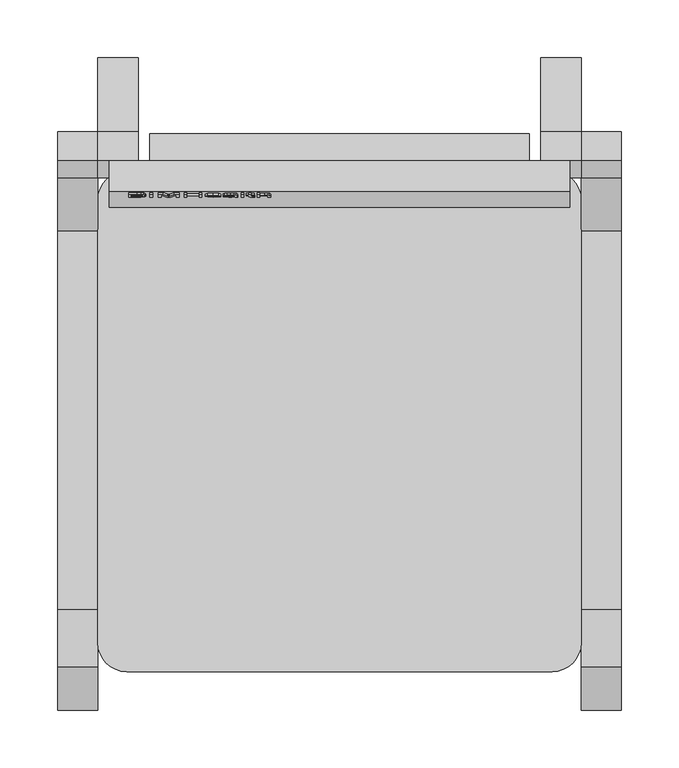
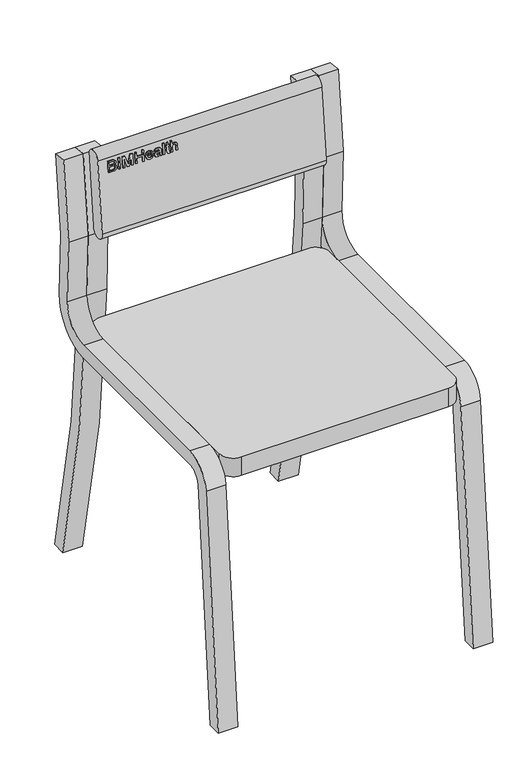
"""IFC4 building model written with IfcOpenShell, lengths in millimetres: proxy geometry, BIMHealth-Visitors_Chair-LOD2A-v1 : BIMHealth-Visitors_Chair-LOD2A-v1."""

from ifc_helpers import new_model, si_unit, point, frame, frame_2d, origin, place, context, project, spatial, polyline, circle_curve, trimmed, segment, composite_curve, outline, extrude, source, transform, mapped, element, save


def generic_models_43fc684f(model_context):
    return source(origin(), model_context, "Body", "SweptSolid", [
        extrude(outline(composite_curve([segment(polyline([(9.4740944, 791.6614232), (34.3371418, 789.0482116), (19.2232707, 645.2493336), (23.1777963, 532.006535)]), True, "CONTINUOUS"), segment(trimmed(circle_curve(frame_2d((2562.2174881, 620.6717548)), 2540.587349), [point((23.1777963, 532.006535))], [point((98.6122741, 0.0))], True, "CARTESIAN"), True, "CONTINUOUS"), segment(polyline([(98.6122741, 0.0), (72.839048, 0.0)]), True, "CONTINUOUS"), segment(trimmed(circle_curve(frame_2d((2562.2174881, 620.6717548)), 2565.587349), [point((72.839048, 0.0))], [point((-1.8069743, 531.1340476))], False, "CARTESIAN"), True, "CONTINUOUS"), segment(polyline([(-1.8069743, 531.1340476), (-5.8225103, 646.1239516), (9.4740944, 791.6614232)]), True, "CONTINUOUS")], self_intersect=False)), frame((15.0, 0.0, 0.0), z_axis=(1.0, 0.0, 0.0), x_axis=(0.0, 1.0, 0.0)), (0.0, 0.0, 1.0), 35.0),
        extrude(outline(composite_curve([segment(polyline([(9.4740944, 791.6614232), (34.3371418, 789.0482116), (19.2232707, 645.2493336), (23.1777963, 532.006535)]), True, "CONTINUOUS"), segment(trimmed(circle_curve(frame_2d((2562.2174881, 620.6717548)), 2540.587349), [point((23.1777963, 532.006535))], [point((98.6122741, 0.0))], True, "CARTESIAN"), True, "CONTINUOUS"), segment(polyline([(98.6122741, 0.0), (72.839048, 0.0)]), True, "CONTINUOUS"), segment(trimmed(circle_curve(frame_2d((2562.2174881, 620.6717548)), 2565.587349), [point((72.839048, 0.0))], [point((-1.8069743, 531.1340476))], False, "CARTESIAN"), True, "CONTINUOUS"), segment(polyline([(-1.8069743, 531.1340476), (-5.8225103, 646.1239516), (9.4740944, 791.6614232)]), True, "CONTINUOUS")], self_intersect=False)), frame((400.0, 0.0, 0.0), z_axis=(1.0, 0.0, 0.0), x_axis=(0.0, 1.0, 0.0)), (0.0, 0.0, 1.0), 35.0),
        extrude(outline(composite_curve([segment(polyline([(9.4740944, 791.6614232), (34.3371418, 789.0482116), (19.2232707, 645.2493336), (23.1777963, 532.006535)]), True, "CONTINUOUS"), segment(trimmed(circle_curve(frame_2d((-51.7765157, 529.3890727)), 75.0), [point((23.1777963, 532.006535))], [point((-51.7765157, 454.3890727))], False, "CARTESIAN"), True, "CONTINUOUS"), segment(polyline([(-51.7765157, 454.3890727), (-380.8720183, 454.3890727)]), True, "CONTINUOUS"), segment(trimmed(circle_curve(frame_2d((-380.8720183, 429.3890727)), 25.0), [point((-380.8720183, 454.3890727))], [point((-405.7768857, 431.5679663))], True, "CARTESIAN"), True, "CONTINUOUS"), segment(polyline([(-405.7768857, 431.5679663), (-443.5341903, 0.0), (-468.6296862, 0.0), (-430.6817532, 433.7468599)]), True, "CONTINUOUS"), segment(trimmed(circle_curve(frame_2d((-380.8720183, 429.3890727)), 50.0), [point((-430.6817532, 433.7468599))], [point((-380.8720183, 479.3890727))], False, "CARTESIAN"), True, "CONTINUOUS"), segment(polyline([(-380.8720183, 479.3890727), (-51.7765157, 479.3890727)]), True, "CONTINUOUS"), segment(trimmed(circle_curve(frame_2d((-51.7765157, 529.3890727)), 50.0), [point((-51.7765157, 479.3890727))], [point((-1.8069743, 531.1340476))], True, "CARTESIAN"), True, "CONTINUOUS"), segment(polyline([(-1.8069743, 531.1340476), (-5.8225103, 646.1239516), (9.4740944, 791.6614232)]), True, "CONTINUOUS")], self_intersect=False)), frame((-20.0, 0.0, 0.0), z_axis=(1.0, 0.0, 0.0), x_axis=(0.0, 1.0, 0.0)), (0.0, 0.0, 1.0), 35.0),
        extrude(outline(composite_curve([segment(polyline([(9.4740944, 791.6614232), (34.3371418, 789.0482116), (19.2232707, 645.2493336), (23.1777963, 532.006535)]), True, "CONTINUOUS"), segment(trimmed(circle_curve(frame_2d((-51.7765157, 529.3890727)), 75.0), [point((23.1777963, 532.006535))], [point((-51.7765157, 454.3890727))], False, "CARTESIAN"), True, "CONTINUOUS"), segment(polyline([(-51.7765157, 454.3890727), (-380.8720183, 454.3890727)]), True, "CONTINUOUS"), segment(trimmed(circle_curve(frame_2d((-380.8720183, 429.3890727)), 25.0), [point((-380.8720183, 454.3890727))], [point((-405.7768857, 431.5679663))], True, "CARTESIAN"), True, "CONTINUOUS"), segment(polyline([(-405.7768857, 431.5679663), (-443.5341903, 0.0), (-468.6296862, 0.0), (-430.6817532, 433.7468599)]), True, "CONTINUOUS"), segment(trimmed(circle_curve(frame_2d((-380.8720183, 429.3890727)), 50.0), [point((-430.6817532, 433.7468599))], [point((-380.8720183, 479.3890727))], False, "CARTESIAN"), True, "CONTINUOUS"), segment(polyline([(-380.8720183, 479.3890727), (-51.7765157, 479.3890727)]), True, "CONTINUOUS"), segment(trimmed(circle_curve(frame_2d((-51.7765157, 529.3890727)), 50.0), [point((-51.7765157, 479.3890727))], [point((-1.8069743, 531.1340476))], True, "CARTESIAN"), True, "CONTINUOUS"), segment(polyline([(-1.8069743, 531.1340476), (-5.8225103, 646.1239516), (9.4740944, 791.6614232)]), True, "CONTINUOUS")], self_intersect=False)), frame((435.0, 0.0, 0.0), z_axis=(1.0, 0.0, 0.0), x_axis=(0.0, 1.0, 0.0)), (0.0, 0.0, 1.0), 35.0),
        extrude(outline(polyline([(7.4567308, 0.0), (7.4567308, -19.6923076), (-0.0576923, -19.6923076), (-3.7379807, -19.1129807), (-5.9110576, -17.3317307), (-6.6971153, -14.8124999), (-6.0360576, -12.5120192), (-4.0384615, -10.7692307), (-6.4639423, -8.9326922), (-7.3125, -5.8701922), (-6.733173, -3.2235577), (-5.2980769, -1.3389423), (-3.15625, -0.3389423), (0.0, 0.0), (7.4567308, 0.0)]), holes=[polyline([(4.9951924, -11.6923077), (0.5, -11.6923077), (-2.125, -11.9038461), (-3.7043269, -12.8149038), (-4.2355769, -14.4182692), (-3.7403846, -16.0240385), (-2.3221153, -16.9735576), (0.8413462, -17.2307692), (4.9951924, -17.2307692), (4.9951924, -11.6923077)]), polyline([(4.9951924, -2.4615384), (-0.0528846, -2.4615384), (-1.8798076, -2.5576923), (-3.4254807, -3.09375), (-4.8509615, -5.8461538), (-4.3798076, -7.7596154), (-2.8533653, -8.9014422), (0.1875, -9.2307692), (4.9951924, -9.2307692), (4.9951924, -2.4615384)])]), frame((49.1725022, -20.6507996, 765.2940874), z_axis=(0.0, -0.9945218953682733, 0.1045284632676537), x_axis=(-1.0, 0.0, 0.0)), (0.0, 0.0, 1.0), 2.0),
        extrude(outline(polyline([(0.0, -2.4615385), (0.0, 0.0), (1.9999999, 0.0), (1.9999999, -2.4615385), (0.0, -2.4615385)])), frame((60.1773098, -22.6398433, 765.5031443), z_axis=(0.0, 0.10452846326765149, 0.9945218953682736), x_axis=(0.0, 0.9945218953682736, -0.10452846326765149)), (0.0, 0.0, 1.0), 19.6923077),
        extrude(outline(polyline([(2.4615385, 0.0), (2.4615385, -19.6923076), (-1.7596154, -19.6923076), (-5.7980769, -5.8125), (-6.6153846, -2.9134615), (-7.4951923, -6.0528845), (-11.4567308, -19.6923076), (-15.6923077, -19.6923076), (-15.6923077, 0.0), (-13.2307692, 0.0), (-13.2307692, -17.2307692), (-8.2836538, 0.0), (-4.9519231, 0.0), (0.0, -17.2307692), (0.0, 0.0), (2.4615385, 0.0)])), frame((70.0234637, -20.6507996, 765.2940874), z_axis=(0.0, -0.9945218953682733, 0.1045284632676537), x_axis=(-1.0, 0.0, 0.0)), (0.0, 0.0, 1.0), 2.0),
        extrude(outline(polyline([(2.4615385, 0.0), (2.4615385, -19.6923076), (0.0, -19.6923076), (0.0, -11.6923077), (-10.4615384, -11.6923077), (-10.4615384, -19.6923076), (-12.9230769, -19.6923076), (-12.9230769, 0.0), (-10.4615384, 0.0), (-10.4615384, -9.2307692), (0.0, -9.2307692), (0.0, 0.0), (2.4615385, 0.0)])), frame((92.4850022, -20.6507996, 765.2940874), z_axis=(0.0, -0.9945218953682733, 0.1045284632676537), x_axis=(-1.0, 0.0, 0.0)), (0.0, 0.0, 1.0), 2.0),
        extrude(outline(polyline([(2.2814058, 0.0), (3.7386703, -1.9482945), (-0.1146776, -2.5362265), (-3.8503389, -0.3006806), (-6.0034149, 4.7275284), (-3.3875047, 9.8883577), (1.9992252, 12.4452574), (6.8870125, 10.2843244), (8.7913973, 5.4335929), (6.037796, 0.1696204), (-2.1420986, 7.6681357), (-3.4549294, 4.4273493), (-2.0480384, 1.3765778), (0.0, 0.0), (2.2814058, 0.0)]), holes=[polyline([(-0.3732318, 9.3799423), (5.6180913, 3.1889085), (6.5357356, 5.4484709), (5.1114589, 8.5794275), (2.3418651, 10.1174345), (-0.3732318, 9.3799423)])]), frame((117.9465406, -20.3718895, 767.9477395), z_axis=(0.0, -0.9945218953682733, 0.10452846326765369), x_axis=(0.6954214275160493, 0.075114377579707, 0.7146655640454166)), (0.0, 0.0, 1.0), 2.0),
        extrude(outline(polyline([(1.946017, 0.0), (1.1181996, 2.7920783), (1.4914396, 5.4473274), (3.7301193, 8.4689749), (6.9570109, 8.7084262), (8.6552147, 7.6457185), (9.6046582, 6.0242909), (9.8258656, 4.1337659), (9.5035565, 1.9961878), (8.9562393, -2.3215375), (11.4100451, -2.4401229), (12.9455741, -0.0836179), (13.2838466, 2.4287205), (12.0653055, 4.0866358), (13.1356149, 6.3245554), (15.0793513, 4.5541359), (15.7376524, 2.0744845), (15.180453, -1.1630492), (13.8220419, -3.8547861), (12.2469844, -5.1060141), (10.4233537, -5.2937744), (8.3420276, -4.7266928), (5.436685, -3.7582453), (1.3401672, -2.5245009), (-0.7784068, -2.3352205), (0.0, 0.0), (1.946017, 0.0)]), holes=[polyline([(6.2880675, -1.4397485), (7.1561735, 2.4492449), (7.4473159, 4.5845424), (3.6609445, 4.171774), (3.4321354, 1.6229478), (4.2766765, -0.3511952), (6.2880675, -1.4397485)])]), frame((134.331156, -20.6507996, 765.2940874), z_axis=(0.0, -0.9945218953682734, 0.1045284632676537), x_axis=(-0.31622776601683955, 0.09916440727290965, 0.943486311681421)), (0.0, 0.0, 1.0), 2.0),
        extrude(outline(polyline([(0.0, -2.4615385), (0.0, 0.0), (1.9999999, 0.0), (1.9999999, -2.4615385), (0.0, -2.4615385)])), frame((139.5619252, -22.6398433, 765.5031443), z_axis=(0.0, 0.10452846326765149, 0.9945218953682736), x_axis=(0.0, 0.9945218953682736, -0.10452846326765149)), (0.0, 0.0, 1.0), 19.6923077),
        extrude(outline(polyline([(9.0385156, 0.0), (12.336755, 1.0995842), (12.3194027, -0.7566892), (11.6337058, -2.744332), (7.6236388, -3.5325485), (-0.3351862, -2.4386107), (-0.5865759, -4.2675687), (-3.0251865, -3.9323825), (-2.7737968, -2.1034245), (-6.2554851, -1.6248676), (-7.3539351, 1.0107959), (-2.4386106, 0.3351862), (-2.1034244, 2.7737968), (0.3351862, 2.4386106), (0.0, 0.0), (9.0385156, 0.0)])), frame((148.4850022, -19.396458, 777.2283501), z_axis=(0.0, -0.9945218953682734, 0.1045284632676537), x_axis=(0.13616939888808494, -0.10355484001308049, -0.9852584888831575)), (0.0, 0.0, 1.0), 2.0),
        extrude(outline(polyline([(2.4615384, 0.0), (2.4615384, -19.6923076), (0.0, -19.6923076), (0.0, -12.451923), (-4.2836539, -14.7692307), (-7.048077, -14.1370192), (-8.7259616, -12.3894231), (-9.2307693, -9.1538461), (-9.2307693, 0.0), (-6.7692308, 0.0), (-6.7692308, -8.8990384), (-5.985577, -11.4951923), (-3.7644231, -12.3076922), (-1.7475962, -11.7596153), (-0.4014423, -10.2740385), (0.0, -7.6826923), (0.0, 0.0), (2.4615384, 0.0)])), frame((155.8696175, -20.6507996, 765.2940874), z_axis=(0.0, -0.9945218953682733, 0.1045284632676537), x_axis=(-1.0, 0.0, 0.0)), (0.0, 0.0, 1.0), 2.0),
        extrude(outline(polyline([(0.0, -25.0), (0.0, 0.0), (330.0, 0.0), (330.0, -25.0), (0.0, -25.0)])), frame((60.0, 20.7548495, 659.8213328), z_axis=(0.0, 0.10452846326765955, 0.9945218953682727), x_axis=(1.0, 0.0, 0.0)), (0.0, 0.0, 1.0), 110.0),
        extrude(outline(composite_curve([segment(trimmed(circle_curve(frame_2d((-18.0878893, 659.5526071)), 13.6018648), [point((-4.560537, 658.1308251))], [point((-31.6152417, 660.9743891))], False, "CARTESIAN"), True, "CONTINUOUS"), segment(polyline([(-31.6152417, 660.9743891), (-18.0265414, 790.2622355)]), True, "CONTINUOUS"), segment(trimmed(circle_curve(frame_2d((-4.4991891, 788.8404535)), 13.6018648), [point((-18.0265414, 790.2622355))], [point((9.0281632, 787.4186715))], False, "CARTESIAN"), True, "CONTINUOUS"), segment(polyline([(9.0281632, 787.4186715), (-4.560537, 658.1308251)]), True, "CONTINUOUS")], self_intersect=False)), frame((25.0, 0.0, 0.0), z_axis=(1.0, 0.0, 0.0), x_axis=(0.0, 1.0, 0.0)), (0.0, 0.0, 1.0), 400.0),
        extrude(outline(composite_curve([segment(trimmed(circle_curve(frame_2d((410.0, -25.0)), 25.0), [point((410.0, 0.0))], [point((435.0, -25.0))], False, "CARTESIAN"), True, "CONTINUOUS"), segment(polyline([(435.0, -25.0), (435.0, -410.0)]), True, "CONTINUOUS"), segment(trimmed(circle_curve(frame_2d((410.0, -410.0)), 25.0), [point((435.0, -410.0))], [point((410.0, -435.0))], False, "CARTESIAN"), True, "CONTINUOUS"), segment(polyline([(410.0, -435.0), (40.0, -435.0)]), True, "CONTINUOUS"), segment(trimmed(circle_curve(frame_2d((40.0, -410.0)), 25.0), [point((40.0, -435.0))], [point((15.0, -410.0))], False, "CARTESIAN"), True, "CONTINUOUS"), segment(polyline([(15.0, -410.0), (15.0, -25.0)]), True, "CONTINUOUS"), segment(trimmed(circle_curve(frame_2d((40.0, -25.0)), 25.0), [point((15.0, -25.0))], [point((40.0, 0.0))], False, "CARTESIAN"), True, "CONTINUOUS"), segment(polyline([(40.0, 0.0), (410.0, 0.0)]), True, "CONTINUOUS")], self_intersect=False)), frame((0.0, 0.0, 445.0), z_axis=(0.0, 0.0, 1.0), x_axis=(1.0, 0.0, 0.0)), (0.0, 0.0, 1.0), 35.0),
    ])


if __name__ == "__main__":
    model = new_model("IFC4")
    model_context = context("Model", 3, world=origin())
    ifc_project = project(units=[si_unit("LENGTHUNIT", "METRE", prefix="MILLI")], contexts=[model_context])
    site = spatial("IfcSite", under=ifc_project)
    building = spatial("IfcBuilding", under=site)
    placement = place(None, origin())
    generic_models_shape = generic_models_43fc684f(model_context)
    element("IfcBuildingElementProxy", 1, Name="BIMHealth-Visitors_Chair-LOD2A-v1 : BIMHealth-Visitors_Chair-LOD2A-v1", ObjectType="BIMHealth-Visitors_Chair-LOD2A-v1 : BIMHealth-Visitors_Chair-LOD2A-v1", at=placement, inside=building, context=model_context, shape_type="MappedRepresentation", body=[
        mapped(generic_models_shape, transform((0.0, 0.0, 0.0), x_axis=(1.0, 0.0, 0.0), y_axis=(0.0, 1.0, 0.0), z_axis=(0.0, 0.0, 1.0))),
    ])
    save(model, "model.ifc")
